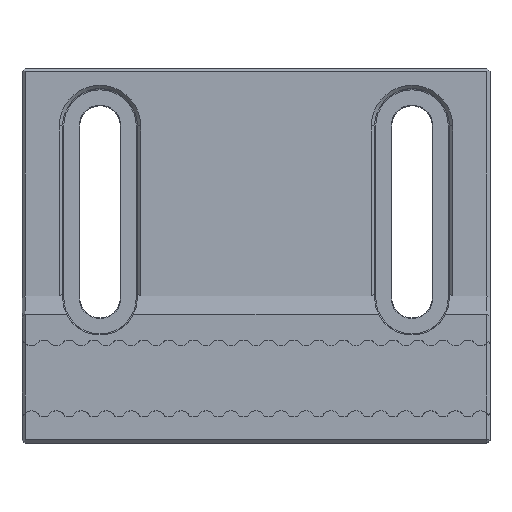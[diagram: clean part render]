
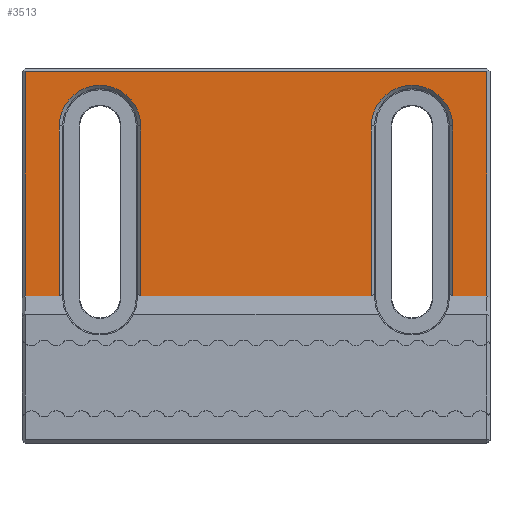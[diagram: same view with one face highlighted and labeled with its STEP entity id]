
A CAD part, top view. The second image highlights one B-rep face of the part: STEP entity #3513.
In plain terms, the highlighted planar face has unit normal (0, 0, 1).
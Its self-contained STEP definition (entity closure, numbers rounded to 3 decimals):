
#3373=CIRCLE('',#16756,6.5);
#3374=CIRCLE('',#16757,6.5);
#3513=ADVANCED_FACE('',(#4719),#4120,.T.);
#4120=PLANE('',#16758);
#4719=FACE_OUTER_BOUND('',#5350,.T.);
#5350=EDGE_LOOP('',(#6215,#6216,#6217,#6218,#6219,#6220,#6221,#6222,#6223,
#6224,#6225,#6226));
#6215=ORIENTED_EDGE('',*,*,#11124,.T.);
#6216=ORIENTED_EDGE('',*,*,#11125,.T.);
#6217=ORIENTED_EDGE('',*,*,#11126,.F.);
#6218=ORIENTED_EDGE('',*,*,#11127,.T.);
#6219=ORIENTED_EDGE('',*,*,#11128,.T.);
#6220=ORIENTED_EDGE('',*,*,#11129,.T.);
#6221=ORIENTED_EDGE('',*,*,#11130,.F.);
#6222=ORIENTED_EDGE('',*,*,#11131,.T.);
#6223=ORIENTED_EDGE('',*,*,#11132,.T.);
#6224=ORIENTED_EDGE('',*,*,#11133,.T.);
#6225=ORIENTED_EDGE('',*,*,#11134,.F.);
#6226=ORIENTED_EDGE('',*,*,#11135,.T.);
#9819=VERTEX_POINT('',#21210);
#9820=VERTEX_POINT('',#21211);
#9821=VERTEX_POINT('',#21213);
#9822=VERTEX_POINT('',#21215);
#9823=VERTEX_POINT('',#21217);
#9824=VERTEX_POINT('',#21219);
#9825=VERTEX_POINT('',#21221);
#9826=VERTEX_POINT('',#21223);
#9827=VERTEX_POINT('',#21225);
#9828=VERTEX_POINT('',#21227);
#9829=VERTEX_POINT('',#21229);
#9830=VERTEX_POINT('',#21231);
#11124=EDGE_CURVE('',#9819,#9820,#12912,.T.);
#11125=EDGE_CURVE('',#9820,#9821,#12913,.T.);
#11126=EDGE_CURVE('',#9822,#9821,#12914,.T.);
#11127=EDGE_CURVE('',#9822,#9823,#12915,.T.);
#11128=EDGE_CURVE('',#9823,#9824,#3373,.T.);
#11129=EDGE_CURVE('',#9824,#9825,#12916,.T.);
#11130=EDGE_CURVE('',#9826,#9825,#12917,.T.);
#11131=EDGE_CURVE('',#9826,#9827,#12918,.T.);
#11132=EDGE_CURVE('',#9827,#9828,#3374,.T.);
#11133=EDGE_CURVE('',#9828,#9829,#12919,.T.);
#11134=EDGE_CURVE('',#9830,#9829,#12920,.T.);
#11135=EDGE_CURVE('',#9830,#9819,#12921,.T.);
#12912=LINE('',#21209,#14570);
#12913=LINE('',#21212,#14571);
#12914=LINE('',#21214,#14572);
#12915=LINE('',#21216,#14573);
#12916=LINE('',#21220,#14574);
#12917=LINE('',#21222,#14575);
#12918=LINE('',#21224,#14576);
#12919=LINE('',#21228,#14577);
#12920=LINE('',#21230,#14578);
#12921=LINE('',#21232,#14579);
#14570=VECTOR('',#17881,1.);
#14571=VECTOR('',#17882,1.);
#14572=VECTOR('',#17883,1.);
#14573=VECTOR('',#17884,1.);
#14574=VECTOR('',#17887,1.);
#14575=VECTOR('',#17888,1.);
#14576=VECTOR('',#17889,1.);
#14577=VECTOR('',#17892,1.);
#14578=VECTOR('',#17893,1.);
#14579=VECTOR('',#17894,1.);
#16756=AXIS2_PLACEMENT_3D('',#21218,#17885,#17886);
#16757=AXIS2_PLACEMENT_3D('',#21226,#17890,#17891);
#16758=AXIS2_PLACEMENT_3D('',#21233,#17895,#17896);
#17881=DIRECTION('',(-1.,0.,0.));
#17882=DIRECTION('',(0.,-1.,0.));
#17883=DIRECTION('',(-1.,0.,0.));
#17884=DIRECTION('',(0.,1.,0.));
#17885=DIRECTION('',(0.,0.,-1.));
#17886=DIRECTION('',(1.,0.,0.));
#17887=DIRECTION('',(0.,-1.,0.));
#17888=DIRECTION('',(-1.,0.,0.));
#17889=DIRECTION('',(0.,1.,0.));
#17890=DIRECTION('',(0.,0.,-1.));
#17891=DIRECTION('',(1.,0.,0.));
#17892=DIRECTION('',(0.,-1.,0.));
#17893=DIRECTION('',(-1.,0.,0.));
#17894=DIRECTION('',(0.,1.,0.));
#17895=DIRECTION('',(0.,0.,1.));
#17896=DIRECTION('',(1.,0.,0.));
#21209=CARTESIAN_POINT('',(50.,134.5,74.533));
#21210=CARTESIAN_POINT('',(37.,134.5,74.533));
#21211=CARTESIAN_POINT('',(-37.,134.5,74.533));
#21212=CARTESIAN_POINT('',(-37.,99.127,74.533));
#21213=CARTESIAN_POINT('',(-37.,98.55,74.533));
#21214=CARTESIAN_POINT('',(50.,98.55,74.533));
#21215=CARTESIAN_POINT('',(-31.5,98.55,74.533));
#21216=CARTESIAN_POINT('',(-31.5,99.127,74.533));
#21217=CARTESIAN_POINT('',(-31.5,125.823,74.533));
#21218=CARTESIAN_POINT('',(-25.,125.823,74.533));
#21219=CARTESIAN_POINT('',(-18.5,125.823,74.533));
#21220=CARTESIAN_POINT('',(-18.5,99.127,74.533));
#21221=CARTESIAN_POINT('',(-18.5,98.55,74.533));
#21222=CARTESIAN_POINT('',(50.,98.55,74.533));
#21223=CARTESIAN_POINT('',(18.5,98.55,74.533));
#21224=CARTESIAN_POINT('',(18.5,99.127,74.533));
#21225=CARTESIAN_POINT('',(18.5,125.823,74.533));
#21226=CARTESIAN_POINT('',(25.,125.823,74.533));
#21227=CARTESIAN_POINT('',(31.5,125.823,74.533));
#21228=CARTESIAN_POINT('',(31.5,99.127,74.533));
#21229=CARTESIAN_POINT('',(31.5,98.55,74.533));
#21230=CARTESIAN_POINT('',(50.,98.55,74.533));
#21231=CARTESIAN_POINT('',(37.,98.55,74.533));
#21232=CARTESIAN_POINT('',(37.,99.127,74.533));
#21233=CARTESIAN_POINT('',(50.,99.127,74.533));
